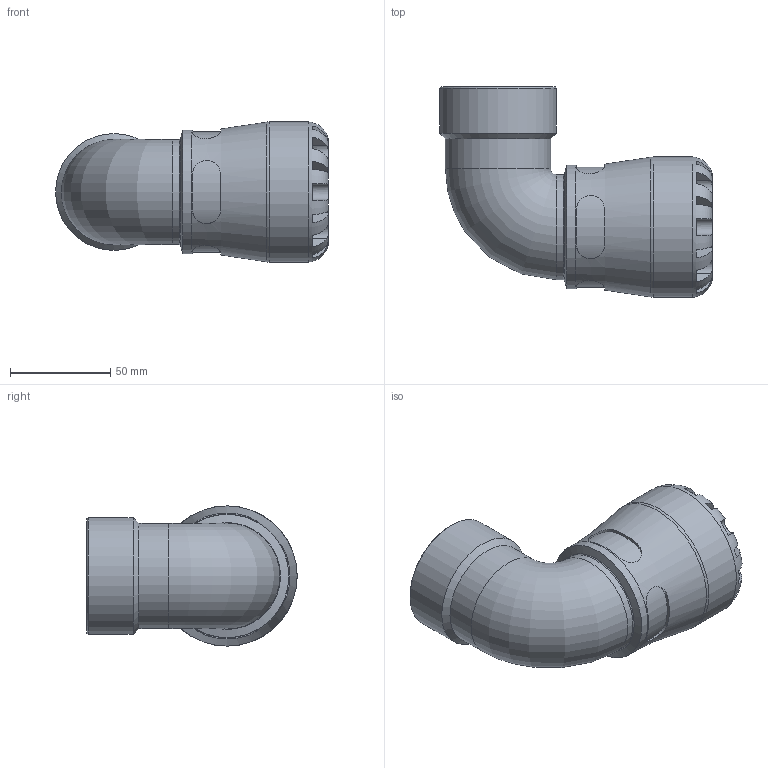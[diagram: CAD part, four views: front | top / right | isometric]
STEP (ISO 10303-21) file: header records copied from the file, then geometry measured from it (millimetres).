
FILE_DESCRIPTION(/* description */ ('PLASSON 90° ELBOW WITH FEMALE INTEGRAL BRASS 40X1.1/2" SERIES 1'),/* implementation_level */ '2;1');
FILE_NAME(/* name */ 'C:\Dropbox\KIMPROJECTS-Inventor\99-16-3568-Processing\1076\107600040015_197600040015.ipt.step',/* time_stamp */ '2017-05-18T12:03:36+03:00',/* author */ ('KIM'),/* organization */ (''),/* preprocessor_version */ 'ST-DEVELOPER v15.6',/* originating_system */ 'Autodesk Inventor 2015',/* authorisation */ '');
FILE_SCHEMA (('AUTOMOTIVE_DESIGN { 1 0 10303 214 3 1 1 }'));
Length unit declared in the file: millimetre
Products named in the file (1): 107600040015_197600040015
Bounding box: 136.15 x 105 x 70 mm (x, y, z)
Volume: 239183.9 mm3; surface area: 57824.8 mm2
Topology: 1 solids, 1 shells, 108 faces, 265 edges, 164 vertices
Faces by surface type: plane 60, cylinder 37, torus 6, cone 5
Full cylindrical faces by diameter (mm): 40 x1, 40.361 x2, 44.845 x1, 52.469 x2, 58.298 x1, 61.6 x1, 70 x1
Entity records: 3980 total; most frequent: CARTESIAN_POINT 1455, DIRECTION 488, ORIENTED_EDGE 478, EDGE_CURVE 239, AXIS2_PLACEMENT_3D 204, VERTEX_POINT 159, EDGE_LOOP 136, STYLED_ITEM 109
